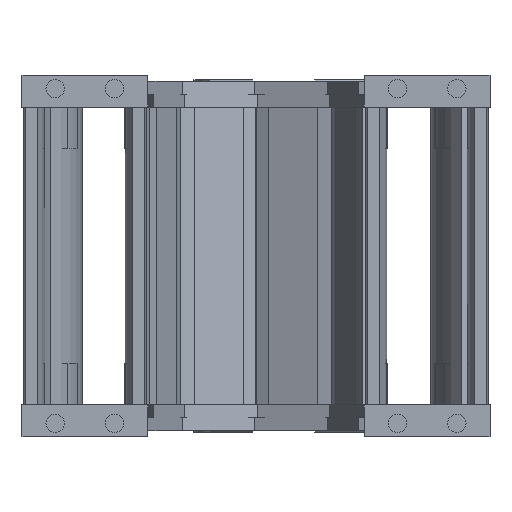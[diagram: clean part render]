
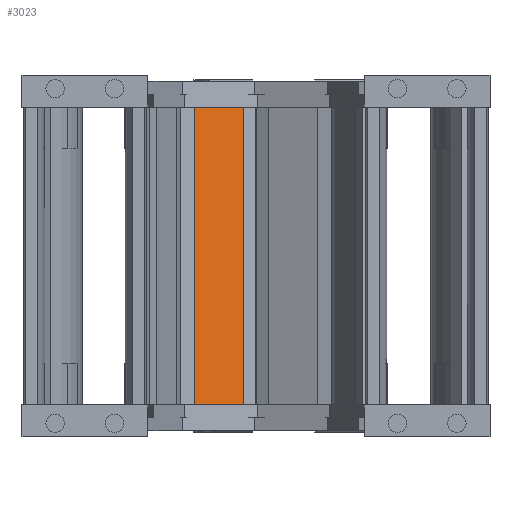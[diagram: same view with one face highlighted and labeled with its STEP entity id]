
A CAD part, left-side view. The second image highlights one B-rep face of the part: STEP entity #3023.
In plain terms, the highlighted planar face has unit normal (-0.925, -0.381, 0) as drawn and (0, 1, 0) by its records, which use the part's own axes.
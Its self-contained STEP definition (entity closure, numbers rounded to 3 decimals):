
#2766=DIRECTION('',(1.,0.,0.));
#2767=VECTOR('',#2766,23.);
#2768=CARTESIAN_POINT('',(-11.5,3.,118.));
#2769=LINE('',#2768,#2767);
#2815=DIRECTION('',(0.,0.,-1.));
#2816=VECTOR('',#2815,130.5);
#2817=CARTESIAN_POINT('',(11.5,3.,118.));
#2818=LINE('',#2817,#2816);
#2837=DIRECTION('',(-1.,0.,0.));
#2838=VECTOR('',#2837,23.);
#2839=CARTESIAN_POINT('',(11.5,3.,-12.5));
#2840=LINE('',#2839,#2838);
#2851=DIRECTION('',(0.,0.,-1.));
#2852=VECTOR('',#2851,130.5);
#2853=CARTESIAN_POINT('',(-11.5,3.,118.));
#2854=LINE('',#2853,#2852);
#2878=CARTESIAN_POINT('',(11.5,3.,118.));
#2879=VERTEX_POINT('',#2878);
#2882=CARTESIAN_POINT('',(-11.5,3.,118.));
#2883=VERTEX_POINT('',#2882);
#2890=CARTESIAN_POINT('',(11.5,3.,-12.5));
#2891=VERTEX_POINT('',#2890);
#2892=CARTESIAN_POINT('',(-11.5,3.,-12.5));
#2893=VERTEX_POINT('',#2892);
#3011=CARTESIAN_POINT('',(15.5,3.,68.));
#3012=DIRECTION('',(0.,1.,0.));
#3013=DIRECTION('',(-1.,0.,0.));
#3014=AXIS2_PLACEMENT_3D('',#3011,#3012,#3013);
#3015=PLANE('',#3014);
#3017=ORIENTED_EDGE('',*,*,#3016,.T.);
#3018=ORIENTED_EDGE('',*,*,#2995,.F.);
#3019=ORIENTED_EDGE('',*,*,#2975,.F.);
#3020=ORIENTED_EDGE('',*,*,#2907,.F.);
#3021=EDGE_LOOP('',(#3017,#3018,#3019,#3020));
#3022=FACE_OUTER_BOUND('',#3021,.F.);
#3023=ADVANCED_FACE('',(#3022),#3015,.T.);
#2907=EDGE_CURVE('',#2883,#2879,#2769,.T.);
#2975=EDGE_CURVE('',#2879,#2891,#2818,.T.);
#2995=EDGE_CURVE('',#2891,#2893,#2840,.T.);
#3016=EDGE_CURVE('',#2883,#2893,#2854,.T.);
